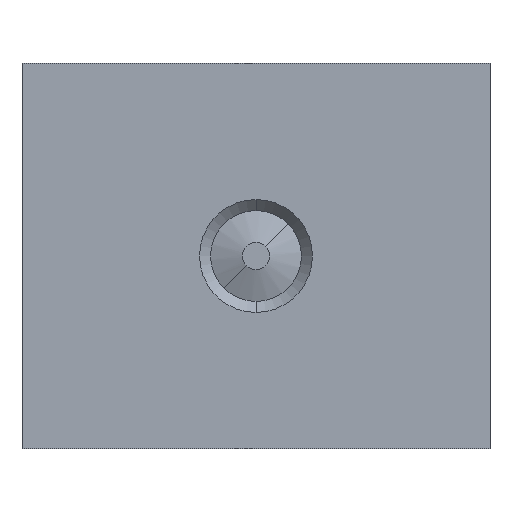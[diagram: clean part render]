
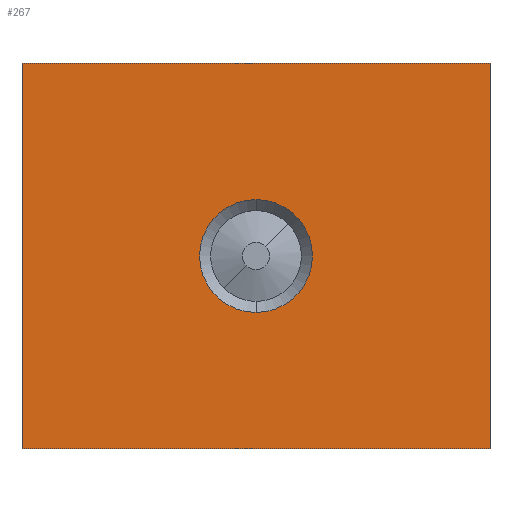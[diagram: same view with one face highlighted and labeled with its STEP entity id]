
A CAD part, front view. The second image highlights one B-rep face of the part: STEP entity #267.
In plain terms, the highlighted planar face has unit normal (0, -1, 0) as drawn and (0, 1, 0) by its records, which use the part's own axes.
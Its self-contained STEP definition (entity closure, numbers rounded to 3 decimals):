
#12 = EDGE_CURVE ( 'NONE', #590, #583, #440, .T. ) ;
#52 = AXIS2_PLACEMENT_3D ( 'NONE', #1107, #1097, #1096 ) ;
#61 = EDGE_CURVE ( 'NONE', #581, #575, #539, .T. ) ;
#62 = AXIS2_PLACEMENT_3D ( 'NONE', #1184, #1183, #1182 ) ;
#89 = EDGE_CURVE ( 'NONE', #575, #583, #534, .T. ) ;
#92 = EDGE_CURVE ( 'NONE', #581, #590, #548, .T. ) ;
#93 = EDGE_CURVE ( 'NONE', #562, #563, #351, .T. ) ;
#106 = AXIS2_PLACEMENT_3D ( 'NONE', #1377, #1378, #1379 ) ;
#166 = EDGE_CURVE ( 'NONE', #563, #562, #388, .T. ) ;
#267 = ADVANCED_FACE ( 'NONE', ( #883, #843 ), #1102, .F. ) ;
#314 = ORIENTED_EDGE ( 'NONE', *, *, #166, .T. ) ;
#316 = ORIENTED_EDGE ( 'NONE', *, *, #92, .T. ) ;
#319 = ORIENTED_EDGE ( 'NONE', *, *, #89, .F. ) ;
#324 = ORIENTED_EDGE ( 'NONE', *, *, #61, .F. ) ;
#341 = VECTOR ( 'NONE', #1369, 1000. ) ;
#351 = CIRCLE ( 'NONE', #106, 2.05 ) ;
#388 = CIRCLE ( 'NONE', #62, 2.05 ) ;
#407 = ORIENTED_EDGE ( 'NONE', *, *, #12, .T. ) ;
#418 = ORIENTED_EDGE ( 'NONE', *, *, #93, .T. ) ;
#440 = LINE ( 'NONE', #679, #533 ) ;
#490 = EDGE_LOOP ( 'NONE', ( #314, #418 ) ) ;
#493 = EDGE_LOOP ( 'NONE', ( #407, #319, #324, #316 ) ) ;
#533 = VECTOR ( 'NONE', #686, 1000. ) ;
#534 = LINE ( 'NONE', #1373, #551 ) ;
#539 = LINE ( 'NONE', #1386, #546 ) ;
#546 = VECTOR ( 'NONE', #1406, 1000. ) ;
#548 = LINE ( 'NONE', #1374, #341 ) ;
#551 = VECTOR ( 'NONE', #1361, 1000. ) ;
#562 = VERTEX_POINT ( 'NONE', #1054 ) ;
#563 = VERTEX_POINT ( 'NONE', #1067 ) ;
#575 = VERTEX_POINT ( 'NONE', #1043 ) ;
#581 = VERTEX_POINT ( 'NONE', #1037 ) ;
#583 = VERTEX_POINT ( 'NONE', #1035 ) ;
#590 = VERTEX_POINT ( 'NONE', #1029 ) ;
#679 = CARTESIAN_POINT ( 'NONE',  ( 0., 17., 0. ) ) ;
#686 = DIRECTION ( 'NONE',  ( -1., 0., 0. ) ) ;
#843 = FACE_OUTER_BOUND ( 'NONE', #493, .T. ) ;
#883 = FACE_BOUND ( 'NONE', #490, .T. ) ;
#1029 = CARTESIAN_POINT ( 'NONE',  ( 17., 17., 0. ) ) ;
#1035 = CARTESIAN_POINT ( 'NONE',  ( 0., 17., 0. ) ) ;
#1037 = CARTESIAN_POINT ( 'NONE',  ( 17., 17., 14. ) ) ;
#1043 = CARTESIAN_POINT ( 'NONE',  ( 0., 17., 14. ) ) ;
#1054 = CARTESIAN_POINT ( 'NONE',  ( 8.5, 17., 4.95 ) ) ;
#1067 = CARTESIAN_POINT ( 'NONE',  ( 8.5, 17., 9.05 ) ) ;
#1096 = DIRECTION ( 'NONE',  ( 0., 0., -1. ) ) ;
#1097 = DIRECTION ( 'NONE',  ( 0., -1., 0. ) ) ;
#1102 = PLANE ( 'NONE',  #52 ) ;
#1107 = CARTESIAN_POINT ( 'NONE',  ( 0., 17., 14. ) ) ;
#1182 = DIRECTION ( 'NONE',  ( 0., 0., -1. ) ) ;
#1183 = DIRECTION ( 'NONE',  ( 0., -1., 0. ) ) ;
#1184 = CARTESIAN_POINT ( 'NONE',  ( 8.5, 17., 7. ) ) ;
#1361 = DIRECTION ( 'NONE',  ( 0., 0., -1. ) ) ;
#1369 = DIRECTION ( 'NONE',  ( 0., 0., -1. ) ) ;
#1373 = CARTESIAN_POINT ( 'NONE',  ( 0., 17., 14. ) ) ;
#1374 = CARTESIAN_POINT ( 'NONE',  ( 17., 17., 14. ) ) ;
#1377 = CARTESIAN_POINT ( 'NONE',  ( 8.5, 17., 7. ) ) ;
#1378 = DIRECTION ( 'NONE',  ( 0., -1., 0. ) ) ;
#1379 = DIRECTION ( 'NONE',  ( 0., 0., -1. ) ) ;
#1386 = CARTESIAN_POINT ( 'NONE',  ( 0., 17., 14. ) ) ;
#1406 = DIRECTION ( 'NONE',  ( -1., 0., 0. ) ) ;
